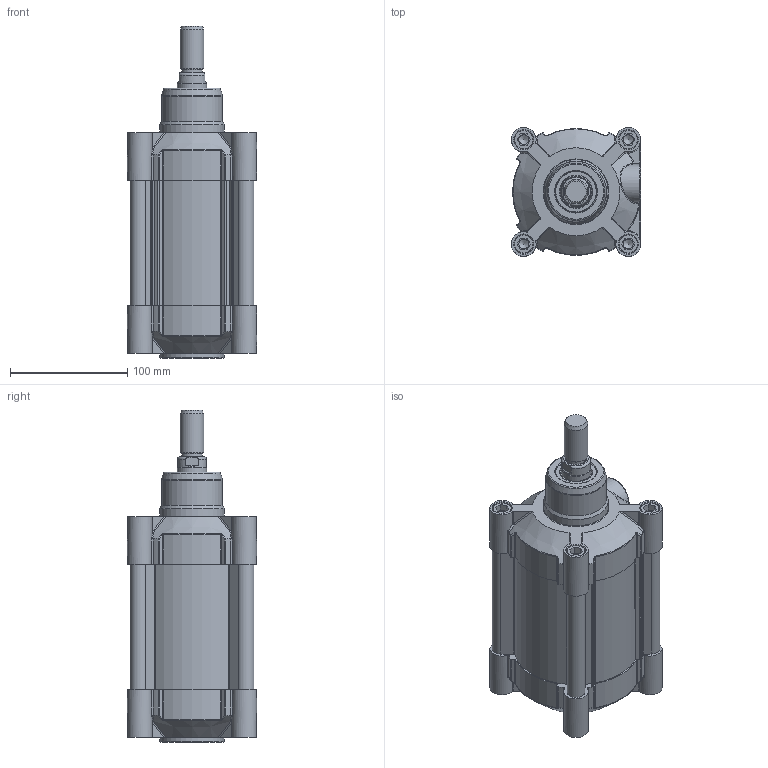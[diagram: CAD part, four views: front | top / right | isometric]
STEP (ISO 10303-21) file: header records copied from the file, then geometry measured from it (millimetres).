
FILE_DESCRIPTION(/* description */ (''),/* implementation_level */ '2;1');
FILE_NAME(/* name */ 'T:\Archivio Inventor\- 00 NUOVI STP PER SITO CON STELO CHE SI MUOVE\SERIE H - U\SERIE HDM\HDM100 - TUBO NUOVO\HDM100.050.GS.M.stp',/* time_stamp */ '2018-08-02T09:18:40+02:00',/* author */ ('carlo.corazza'),/* organization */ (''),/* preprocessor_version */ 'ST-DEVELOPER v16.5',/* originating_system */ 'Autodesk Inventor 2017',/* authorisation */ '');
FILE_SCHEMA (('AUTOMOTIVE_DESIGN { 1 0 10303 214 3 1 1 }'));
Length unit declared in the file: millimetre
Products named in the file (5): HDM100.050.GS.M; TP; TA; STELO-050; CORPO-050
Assembly tree (4 placements, depth 2):
  HDM100.050.GS.M
    TP
    TA
    STELO-050
    CORPO-050
Bounding box: 110 x 110 x 283 mm (x, y, z)
Volume: 875854.5 mm3; surface area: 318662.3 mm2
Topology: 4 solids, 29 shells, 1355 faces, 3135 edges, 1912 vertices
Faces by surface type: plane 408, cylinder 313, bspline 270, torus 126, cone 122, sphere 116
Full cylindrical faces by diameter (mm): 5 x2, 5.9 x2, 6.5 x2, 7.25 x2, 8.376 x8, 9.4 x4, 10 x8, 10.3 x8, 11.8 x4, 11.9 x2, 12 x4, 16 x9, 16.3 x8, 17 x2, 17.5 x1, 18.631 x2, 20 x1, 24.5 x1, 25 x1, 25.8 x1, 25.962 x1, 30 x1, 31.5 x2, 35 x3, 52 x1, 55 x2, 100 x1
Entity records: 43668 total; most frequent: CARTESIAN_POINT 13702, ORIENTED_EDGE 5710, DIRECTION 5644, EDGE_CURVE 2855, AXIS2_PLACEMENT_3D 2293, VERTEX_POINT 1857, EDGE_LOOP 1690, STYLED_ITEM 1359
